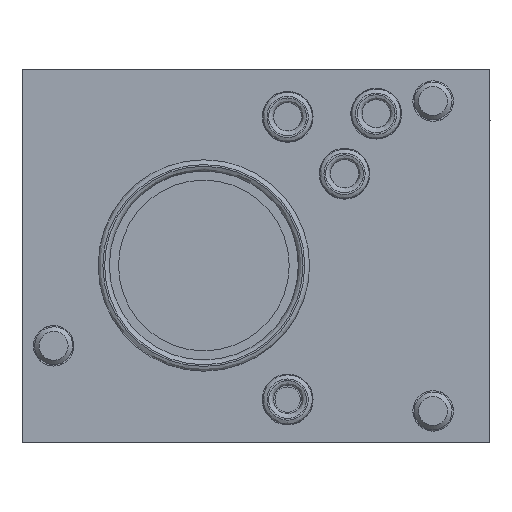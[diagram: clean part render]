
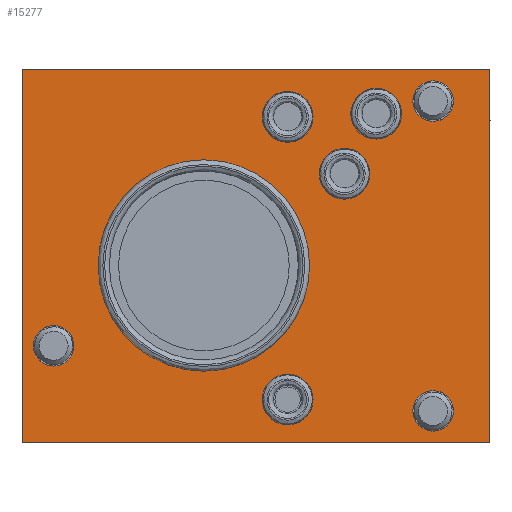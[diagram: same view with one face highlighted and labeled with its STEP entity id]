
A CAD part, left-side view. The second image highlights one B-rep face of the part: STEP entity #15277.
In plain terms, the highlighted planar face has unit normal (-1, 0, 0).
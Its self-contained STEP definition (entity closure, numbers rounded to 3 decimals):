
#47 = CARTESIAN_POINT ( 'NONE',  ( -26., -74., 59. ) ) ;
#59 = VECTOR ( 'NONE', #9910, 1000. ) ;
#92 = CARTESIAN_POINT ( 'NONE',  ( -26., -65., 5. ) ) ;
#191 = FACE_BOUND ( 'NONE', #2579, .T. ) ;
#280 = FACE_BOUND ( 'NONE', #3281, .T. ) ;
#340 = DIRECTION ( 'NONE',  ( 0., 0., 1. ) ) ;
#367 = FACE_BOUND ( 'NONE', #13420, .T. ) ;
#427 = AXIS2_PLACEMENT_3D ( 'NONE', #8024, #14880, #1871 ) ;
#558 = VECTOR ( 'NONE', #2656, 1000. ) ;
#633 = EDGE_CURVE ( 'NONE', #7694, #14038, #3890, .T. ) ;
#760 = AXIS2_PLACEMENT_3D ( 'NONE', #10586, #9428, #9349 ) ;
#1361 = CIRCLE ( 'NONE', #2412, 3.2 ) ;
#1429 = DIRECTION ( 'NONE',  ( 1., 0., 0. ) ) ;
#1611 = VERTEX_POINT ( 'NONE', #2679 ) ;
#1731 = AXIS2_PLACEMENT_3D ( 'NONE', #7628, #2900, #340 ) ;
#1772 = FACE_OUTER_BOUND ( 'NONE', #16268, .T. ) ;
#1871 = DIRECTION ( 'NONE',  ( 0., 0., 1. ) ) ;
#1984 = DIRECTION ( 'NONE',  ( -1., 0., 0. ) ) ;
#2006 = AXIS2_PLACEMENT_3D ( 'NONE', #11901, #10488, #15367 ) ;
#2412 = AXIS2_PLACEMENT_3D ( 'NONE', #3673, #13977, #2596 ) ;
#2579 = EDGE_LOOP ( 'NONE', ( #16011 ) ) ;
#2596 = DIRECTION ( 'NONE',  ( 0., 1., 0. ) ) ;
#2647 = ORIENTED_EDGE ( 'NONE', *, *, #11477, .F. ) ;
#2656 = DIRECTION ( 'NONE',  ( 0., 0., -1. ) ) ;
#2679 = CARTESIAN_POINT ( 'NONE',  ( -26., -1.8, 15.3 ) ) ;
#2761 = FACE_BOUND ( 'NONE', #5683, .T. ) ;
#2900 = DIRECTION ( 'NONE',  ( -1., 0., 0. ) ) ;
#2910 = DIRECTION ( 'NONE',  ( 0., 1., 0. ) ) ;
#2932 = VERTEX_POINT ( 'NONE', #14635 ) ;
#3145 = ORIENTED_EDGE ( 'NONE', *, *, #10227, .T. ) ;
#3281 = EDGE_LOOP ( 'NONE', ( #5806 ) ) ;
#3322 = CIRCLE ( 'NONE', #427, 3.9 ) ;
#3379 = CARTESIAN_POINT ( 'NONE',  ( -26., -56., 52. ) ) ;
#3479 = EDGE_LOOP ( 'NONE', ( #8342 ) ) ;
#3519 = DIRECTION ( 'NONE',  ( 0., -1., 0. ) ) ;
#3673 = CARTESIAN_POINT ( 'NONE',  ( -26., -65., 54. ) ) ;
#3694 = ORIENTED_EDGE ( 'NONE', *, *, #633, .F. ) ;
#3849 = CARTESIAN_POINT ( 'NONE',  ( -26., 0., 0. ) ) ;
#3890 = LINE ( 'NONE', #10210, #558 ) ;
#4087 = FACE_BOUND ( 'NONE', #6780, .T. ) ;
#4089 = CARTESIAN_POINT ( 'NONE',  ( -26., -61.8, 5. ) ) ;
#4251 = FACE_BOUND ( 'NONE', #5264, .T. ) ;
#4252 = EDGE_CURVE ( 'NONE', #12324, #12324, #1361, .T. ) ;
#4409 = ORIENTED_EDGE ( 'NONE', *, *, #11675, .F. ) ;
#4459 = DIRECTION ( 'NONE',  ( 0., 1., 0. ) ) ;
#4529 = CIRCLE ( 'NONE', #10630, 3.2 ) ;
#5014 = AXIS2_PLACEMENT_3D ( 'NONE', #6749, #13059, #5315 ) ;
#5146 = EDGE_CURVE ( 'NONE', #1611, #1611, #11450, .T. ) ;
#5232 = FACE_BOUND ( 'NONE', #11951, .T. ) ;
#5264 = EDGE_LOOP ( 'NONE', ( #6277 ) ) ;
#5315 = DIRECTION ( 'NONE',  ( 0., 0., 1. ) ) ;
#5351 = CARTESIAN_POINT ( 'NONE',  ( -26., 0., 59. ) ) ;
#5412 = FACE_BOUND ( 'NONE', #3479, .T. ) ;
#5444 = VERTEX_POINT ( 'NONE', #7839 ) ;
#5683 = EDGE_LOOP ( 'NONE', ( #2647 ) ) ;
#5735 = VERTEX_POINT ( 'NONE', #11129 ) ;
#5806 = ORIENTED_EDGE ( 'NONE', *, *, #12073, .F. ) ;
#6277 = ORIENTED_EDGE ( 'NONE', *, *, #14507, .F. ) ;
#6280 = EDGE_CURVE ( 'NONE', #8612, #5444, #7508, .T. ) ;
#6335 = VECTOR ( 'NONE', #11996, 1000. ) ;
#6583 = VERTEX_POINT ( 'NONE', #4089 ) ;
#6749 = CARTESIAN_POINT ( 'NONE',  ( -26., -51., 42.5 ) ) ;
#6780 = EDGE_LOOP ( 'NONE', ( #14911 ) ) ;
#6837 = VERTEX_POINT ( 'NONE', #11903 ) ;
#7409 = AXIS2_PLACEMENT_3D ( 'NONE', #3379, #1984, #13112 ) ;
#7508 = LINE ( 'NONE', #11171, #59 ) ;
#7602 = LINE ( 'NONE', #9022, #6335 ) ;
#7628 = CARTESIAN_POINT ( 'NONE',  ( -26., -42., 6.8 ) ) ;
#7694 = VERTEX_POINT ( 'NONE', #47 ) ;
#7839 = CARTESIAN_POINT ( 'NONE',  ( -26., 0., 0. ) ) ;
#7955 = CIRCLE ( 'NONE', #5014, 3.9 ) ;
#7969 = ORIENTED_EDGE ( 'NONE', *, *, #13664, .T. ) ;
#8024 = CARTESIAN_POINT ( 'NONE',  ( -26., -42., 51.5 ) ) ;
#8342 = ORIENTED_EDGE ( 'NONE', *, *, #14995, .F. ) ;
#8612 = VERTEX_POINT ( 'NONE', #5351 ) ;
#8767 = LINE ( 'NONE', #3849, #9136 ) ;
#9022 = CARTESIAN_POINT ( 'NONE',  ( -26., 0., 59. ) ) ;
#9136 = VECTOR ( 'NONE', #3519, 1000. ) ;
#9349 = DIRECTION ( 'NONE',  ( 0., -1., 0. ) ) ;
#9428 = DIRECTION ( 'NONE',  ( -1., 0., 0. ) ) ;
#9910 = DIRECTION ( 'NONE',  ( 0., 0., -1. ) ) ;
#10210 = CARTESIAN_POINT ( 'NONE',  ( -26., -74., 59. ) ) ;
#10227 = EDGE_CURVE ( 'NONE', #6583, #6583, #4529, .T. ) ;
#10488 = DIRECTION ( 'NONE',  ( 1., 0., 0. ) ) ;
#10586 = CARTESIAN_POINT ( 'NONE',  ( -26., -28.75, 28. ) ) ;
#10630 = AXIS2_PLACEMENT_3D ( 'NONE', #92, #1429, #2910 ) ;
#11055 = CARTESIAN_POINT ( 'NONE',  ( -26., -45.15, 28. ) ) ;
#11129 = CARTESIAN_POINT ( 'NONE',  ( -26., -42., 55.4 ) ) ;
#11152 = CARTESIAN_POINT ( 'NONE',  ( -26., -74., 0. ) ) ;
#11171 = CARTESIAN_POINT ( 'NONE',  ( -26., 0., 59. ) ) ;
#11450 = CIRCLE ( 'NONE', #13568, 3.2 ) ;
#11477 = EDGE_CURVE ( 'NONE', #2932, #2932, #12706, .T. ) ;
#11565 = ORIENTED_EDGE ( 'NONE', *, *, #16242, .F. ) ;
#11675 = EDGE_CURVE ( 'NONE', #8612, #7694, #7602, .T. ) ;
#11813 = CIRCLE ( 'NONE', #1731, 3.9 ) ;
#11901 = CARTESIAN_POINT ( 'NONE',  ( -26., 0., 59. ) ) ;
#11903 = CARTESIAN_POINT ( 'NONE',  ( -26., -42., 10.7 ) ) ;
#11951 = EDGE_LOOP ( 'NONE', ( #11565 ) ) ;
#11996 = DIRECTION ( 'NONE',  ( 0., -1., 0. ) ) ;
#12073 = EDGE_CURVE ( 'NONE', #15701, #15701, #7955, .T. ) ;
#12157 = CIRCLE ( 'NONE', #760, 16.4 ) ;
#12324 = VERTEX_POINT ( 'NONE', #13809 ) ;
#12706 = CIRCLE ( 'NONE', #7409, 3.9 ) ;
#12896 = PLANE ( 'NONE',  #2006 ) ;
#13023 = CARTESIAN_POINT ( 'NONE',  ( -26., -5., 15.3 ) ) ;
#13059 = DIRECTION ( 'NONE',  ( -1., 0., 0. ) ) ;
#13112 = DIRECTION ( 'NONE',  ( 0., 0., 1. ) ) ;
#13271 = DIRECTION ( 'NONE',  ( 1., 0., 0. ) ) ;
#13277 = ORIENTED_EDGE ( 'NONE', *, *, #6280, .T. ) ;
#13420 = EDGE_LOOP ( 'NONE', ( #3145 ) ) ;
#13568 = AXIS2_PLACEMENT_3D ( 'NONE', #13023, #13271, #4459 ) ;
#13625 = VERTEX_POINT ( 'NONE', #11055 ) ;
#13664 = EDGE_CURVE ( 'NONE', #5444, #14038, #8767, .T. ) ;
#13809 = CARTESIAN_POINT ( 'NONE',  ( -26., -61.8, 54. ) ) ;
#13977 = DIRECTION ( 'NONE',  ( 1., 0., 0. ) ) ;
#14038 = VERTEX_POINT ( 'NONE', #11152 ) ;
#14507 = EDGE_CURVE ( 'NONE', #6837, #6837, #11813, .T. ) ;
#14552 = CARTESIAN_POINT ( 'NONE',  ( -26., -51., 46.4 ) ) ;
#14635 = CARTESIAN_POINT ( 'NONE',  ( -26., -56., 55.9 ) ) ;
#14880 = DIRECTION ( 'NONE',  ( -1., 0., 0. ) ) ;
#14911 = ORIENTED_EDGE ( 'NONE', *, *, #4252, .T. ) ;
#14995 = EDGE_CURVE ( 'NONE', #5735, #5735, #3322, .T. ) ;
#15277 = ADVANCED_FACE ( 'NONE', ( #191, #367, #4087, #4251, #280, #2761, #5412, #5232, #1772 ), #12896, .F. ) ;
#15367 = DIRECTION ( 'NONE',  ( 0., 1., 0. ) ) ;
#15701 = VERTEX_POINT ( 'NONE', #14552 ) ;
#16011 = ORIENTED_EDGE ( 'NONE', *, *, #5146, .T. ) ;
#16242 = EDGE_CURVE ( 'NONE', #13625, #13625, #12157, .T. ) ;
#16268 = EDGE_LOOP ( 'NONE', ( #7969, #3694, #4409, #13277 ) ) ;
